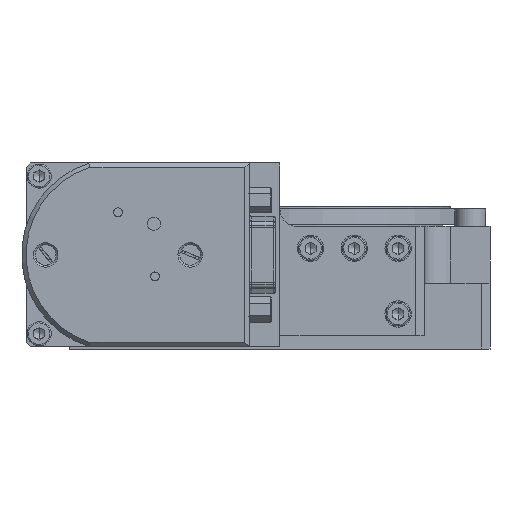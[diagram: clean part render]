
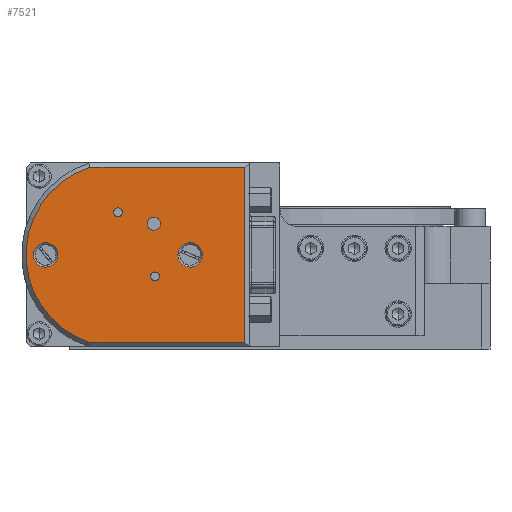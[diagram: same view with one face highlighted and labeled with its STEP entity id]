
A CAD part, front view. The second image highlights one B-rep face of the part: STEP entity #7521.
In plain terms, the highlighted planar face has unit normal (0, -1, 0).
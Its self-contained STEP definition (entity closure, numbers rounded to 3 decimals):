
#728 = VERTEX_POINT ( 'NONE', #11804 ) ;
#729 = EDGE_CURVE ( 'NONE', #728, #777, #11803, .T. ) ;
#777 = VERTEX_POINT ( 'NONE', #11891 ) ;
#3588 = EDGE_CURVE ( 'NONE', #3589, #3764, #17596, .T. ) ;
#3589 = VERTEX_POINT ( 'NONE', #17591 ) ;
#3606 = EDGE_CURVE ( 'NONE', #3607, #3617, #17623, .T. ) ;
#3607 = VERTEX_POINT ( 'NONE', #17676 ) ;
#3617 = VERTEX_POINT ( 'NONE', #17664 ) ;
#3640 = VERTEX_POINT ( 'NONE', #17684 ) ;
#3652 = EDGE_CURVE ( 'NONE', #3654, #3640, #17723, .T. ) ;
#3654 = VERTEX_POINT ( 'NONE', #17718 ) ;
#3764 = VERTEX_POINT ( 'NONE', #17944 ) ;
#7492 = EDGE_CURVE ( 'NONE', #3617, #3607, #24138, .T. ) ;
#7498 = EDGE_CURVE ( 'NONE', #3764, #3589, #24193, .T. ) ;
#7505 = EDGE_CURVE ( 'NONE', #3640, #3654, #24181, .T. ) ;
#7519 = EDGE_CURVE ( 'NONE', #777, #728, #24223, .T. ) ;
#7521 = ADVANCED_FACE ( 'NONE', ( #24218, #24217, #24216, #24215, #24214, #24213 ), #24212, .T. ) ;
#7522 = EDGE_LOOP ( 'NONE', ( #7523, #7580, #7581, #7582 ) ) ;
#7523 = ORIENTED_EDGE ( 'NONE', *, *, #7535, .T. ) ;
#7525 = EDGE_CURVE ( 'NONE', #7545, #7552, #24207, .T. ) ;
#7532 = VERTEX_POINT ( 'NONE', #24195 ) ;
#7535 = EDGE_CURVE ( 'NONE', #7552, #7532, #24249, .T. ) ;
#7540 = VERTEX_POINT ( 'NONE', #24245 ) ;
#7545 = VERTEX_POINT ( 'NONE', #24230 ) ;
#7547 = EDGE_CURVE ( 'NONE', #7540, #7545, #24229, .T. ) ;
#7552 = VERTEX_POINT ( 'NONE', #24277 ) ;
#7561 = EDGE_CURVE ( 'NONE', #9600, #9681, #24276, .T. ) ;
#7567 = EDGE_LOOP ( 'NONE', ( #7568, #7569 ) ) ;
#7568 = ORIENTED_EDGE ( 'NONE', *, *, #3588, .T. ) ;
#7569 = ORIENTED_EDGE ( 'NONE', *, *, #7498, .T. ) ;
#7570 = EDGE_LOOP ( 'NONE', ( #7571, #7572 ) ) ;
#7571 = ORIENTED_EDGE ( 'NONE', *, *, #729, .T. ) ;
#7572 = ORIENTED_EDGE ( 'NONE', *, *, #7519, .T. ) ;
#7580 = ORIENTED_EDGE ( 'NONE', *, *, #7596, .T. ) ;
#7581 = ORIENTED_EDGE ( 'NONE', *, *, #7547, .T. ) ;
#7582 = ORIENTED_EDGE ( 'NONE', *, *, #7525, .T. ) ;
#7583 = EDGE_LOOP ( 'NONE', ( #7584, #7585 ) ) ;
#7584 = ORIENTED_EDGE ( 'NONE', *, *, #9680, .T. ) ;
#7585 = ORIENTED_EDGE ( 'NONE', *, *, #7561, .T. ) ;
#7586 = EDGE_LOOP ( 'NONE', ( #7587, #7588 ) ) ;
#7587 = ORIENTED_EDGE ( 'NONE', *, *, #3606, .T. ) ;
#7588 = ORIENTED_EDGE ( 'NONE', *, *, #7492, .T. ) ;
#7589 = EDGE_LOOP ( 'NONE', ( #7590, #7591 ) ) ;
#7590 = ORIENTED_EDGE ( 'NONE', *, *, #3652, .T. ) ;
#7591 = ORIENTED_EDGE ( 'NONE', *, *, #7505, .T. ) ;
#7596 = EDGE_CURVE ( 'NONE', #7532, #7540, #24303, .T. ) ;
#9600 = VERTEX_POINT ( 'NONE', #29018 ) ;
#9680 = EDGE_CURVE ( 'NONE', #9681, #9600, #29187, .T. ) ;
#9681 = VERTEX_POINT ( 'NONE', #29182 ) ;
#11799 = DIRECTION ( 'NONE',  ( 1., 0., 0. ) ) ;
#11800 = DIRECTION ( 'NONE',  ( 0., 1., 0. ) ) ;
#11801 = CARTESIAN_POINT ( 'NONE',  ( 11., -111., 31.25 ) ) ;
#11802 = AXIS2_PLACEMENT_3D ( 'NONE', #11801, #11800, #11799 ) ;
#11803 = CIRCLE ( 'NONE', #11802, 1.007 ) ;
#11804 = CARTESIAN_POINT ( 'NONE',  ( 12.006, -111., 31.25 ) ) ;
#11891 = CARTESIAN_POINT ( 'NONE',  ( 9.993, -111., 31.25 ) ) ;
#17591 = CARTESIAN_POINT ( 'NONE',  ( 20.456, -111., 16.6 ) ) ;
#17592 = DIRECTION ( 'NONE',  ( 1., 0., 0. ) ) ;
#17593 = DIRECTION ( 'NONE',  ( 0., 1., 0. ) ) ;
#17594 = CARTESIAN_POINT ( 'NONE',  ( 19.45, -111., 16.6 ) ) ;
#17595 = AXIS2_PLACEMENT_3D ( 'NONE', #17594, #17593, #17592 ) ;
#17596 = CIRCLE ( 'NONE', #17595, 1.007 ) ;
#17615 = DIRECTION ( 'NONE',  ( 0., 0., -1. ) ) ;
#17616 = DIRECTION ( 'NONE',  ( 0., 1., 0. ) ) ;
#17617 = CARTESIAN_POINT ( 'NONE',  ( -5.5, -111., 21.5 ) ) ;
#17618 = AXIS2_PLACEMENT_3D ( 'NONE', #17617, #17616, #17615 ) ;
#17623 = CIRCLE ( 'NONE', #17618, 2.8 ) ;
#17664 = CARTESIAN_POINT ( 'NONE',  ( -5.5, -111., 24.3 ) ) ;
#17676 = CARTESIAN_POINT ( 'NONE',  ( -5.5, -111., 18.7 ) ) ;
#17684 = CARTESIAN_POINT ( 'NONE',  ( 17.7, -111., 28.6 ) ) ;
#17718 = CARTESIAN_POINT ( 'NONE',  ( 20.7, -111., 28.6 ) ) ;
#17719 = DIRECTION ( 'NONE',  ( 1., 0., 0. ) ) ;
#17720 = DIRECTION ( 'NONE',  ( 0., 1., 0. ) ) ;
#17721 = CARTESIAN_POINT ( 'NONE',  ( 19.2, -111., 28.6 ) ) ;
#17722 = AXIS2_PLACEMENT_3D ( 'NONE', #17721, #17720, #17719 ) ;
#17723 = CIRCLE ( 'NONE', #17722, 1.5 ) ;
#17944 = CARTESIAN_POINT ( 'NONE',  ( 18.443, -111., 16.6 ) ) ;
#24134 = DIRECTION ( 'NONE',  ( 0., 0., -1. ) ) ;
#24135 = DIRECTION ( 'NONE',  ( 0., 1., 0. ) ) ;
#24136 = CARTESIAN_POINT ( 'NONE',  ( -5.5, -111., 21.5 ) ) ;
#24137 = AXIS2_PLACEMENT_3D ( 'NONE', #24136, #24135, #24134 ) ;
#24138 = CIRCLE ( 'NONE', #24137, 2.8 ) ;
#24178 = DIRECTION ( 'NONE',  ( 1., 0., 0. ) ) ;
#24179 = DIRECTION ( 'NONE',  ( 0., 1., 0. ) ) ;
#24180 = AXIS2_PLACEMENT_3D ( 'NONE', #24186, #24179, #24178 ) ;
#24181 = CIRCLE ( 'NONE', #24180, 1.5 ) ;
#24186 = CARTESIAN_POINT ( 'NONE',  ( 19.2, -111., 28.6 ) ) ;
#24189 = DIRECTION ( 'NONE',  ( 1., 0., 0. ) ) ;
#24190 = DIRECTION ( 'NONE',  ( 0., 1., 0. ) ) ;
#24191 = CARTESIAN_POINT ( 'NONE',  ( 19.45, -111., 16.6 ) ) ;
#24192 = AXIS2_PLACEMENT_3D ( 'NONE', #24191, #24190, #24189 ) ;
#24193 = CIRCLE ( 'NONE', #24192, 1.007 ) ;
#24195 = CARTESIAN_POINT ( 'NONE',  ( 4.597, -111., 41.5 ) ) ;
#24204 = DIRECTION ( 'NONE',  ( 0., 0., 1. ) ) ;
#24205 = VECTOR ( 'NONE', #24204, 1000. ) ;
#24206 = CARTESIAN_POINT ( 'NONE',  ( 40., -111., 31.012 ) ) ;
#24207 = LINE ( 'NONE', #24206, #24205 ) ;
#24208 = DIRECTION ( 'NONE',  ( 1., 0., 0. ) ) ;
#24209 = DIRECTION ( 'NONE',  ( 0., -1., 0. ) ) ;
#24210 = CARTESIAN_POINT ( 'NONE',  ( 17.007, -111., 31.012 ) ) ;
#24211 = AXIS2_PLACEMENT_3D ( 'NONE', #24210, #24209, #24208 ) ;
#24212 = PLANE ( 'NONE',  #24211 ) ;
#24213 = FACE_BOUND ( 'NONE', #7570, .T. ) ;
#24214 = FACE_BOUND ( 'NONE', #7567, .T. ) ;
#24215 = FACE_BOUND ( 'NONE', #7589, .T. ) ;
#24216 = FACE_BOUND ( 'NONE', #7586, .T. ) ;
#24217 = FACE_BOUND ( 'NONE', #7583, .T. ) ;
#24218 = FACE_OUTER_BOUND ( 'NONE', #7522, .T. ) ;
#24219 = DIRECTION ( 'NONE',  ( 1., 0., 0. ) ) ;
#24220 = DIRECTION ( 'NONE',  ( 0., 1., 0. ) ) ;
#24221 = CARTESIAN_POINT ( 'NONE',  ( 11., -111., 31.25 ) ) ;
#24222 = AXIS2_PLACEMENT_3D ( 'NONE', #24221, #24220, #24219 ) ;
#24223 = CIRCLE ( 'NONE', #24222, 1.007 ) ;
#24226 = DIRECTION ( 'NONE',  ( 1., 0., 0. ) ) ;
#24227 = VECTOR ( 'NONE', #24226, 1000. ) ;
#24228 = CARTESIAN_POINT ( 'NONE',  ( 17.007, -111., 1.5 ) ) ;
#24229 = LINE ( 'NONE', #24228, #24227 ) ;
#24230 = CARTESIAN_POINT ( 'NONE',  ( 40., -111., 1.5 ) ) ;
#24245 = CARTESIAN_POINT ( 'NONE',  ( 4.597, -111., 1.5 ) ) ;
#24246 = DIRECTION ( 'NONE',  ( -1., 0., 0. ) ) ;
#24247 = VECTOR ( 'NONE', #24246, 1000. ) ;
#24248 = CARTESIAN_POINT ( 'NONE',  ( 17.007, -111., 41.5 ) ) ;
#24249 = LINE ( 'NONE', #24248, #24247 ) ;
#24272 = DIRECTION ( 'NONE',  ( 0., 0., -1. ) ) ;
#24273 = DIRECTION ( 'NONE',  ( 0., 1., 0. ) ) ;
#24274 = CARTESIAN_POINT ( 'NONE',  ( 27.5, -111., 21.5 ) ) ;
#24275 = AXIS2_PLACEMENT_3D ( 'NONE', #24274, #24273, #24272 ) ;
#24276 = CIRCLE ( 'NONE', #24275, 2.8 ) ;
#24277 = CARTESIAN_POINT ( 'NONE',  ( 40., -111., 41.5 ) ) ;
#24300 = DIRECTION ( 'NONE',  ( 0., 0., 1. ) ) ;
#24301 = DIRECTION ( 'NONE',  ( 0., -1., 0. ) ) ;
#24302 = AXIS2_PLACEMENT_3D ( 'NONE', #24308, #24301, #24300 ) ;
#24303 = CIRCLE ( 'NONE', #24302, 21. ) ;
#24308 = CARTESIAN_POINT ( 'NONE',  ( 11., -111., 21.5 ) ) ;
#29018 = CARTESIAN_POINT ( 'NONE',  ( 27.5, -111., 24.3 ) ) ;
#29182 = CARTESIAN_POINT ( 'NONE',  ( 27.5, -111., 18.7 ) ) ;
#29183 = DIRECTION ( 'NONE',  ( 0., 0., -1. ) ) ;
#29184 = DIRECTION ( 'NONE',  ( 0., 1., 0. ) ) ;
#29185 = CARTESIAN_POINT ( 'NONE',  ( 27.5, -111., 21.5 ) ) ;
#29186 = AXIS2_PLACEMENT_3D ( 'NONE', #29185, #29184, #29183 ) ;
#29187 = CIRCLE ( 'NONE', #29186, 2.8 ) ;
